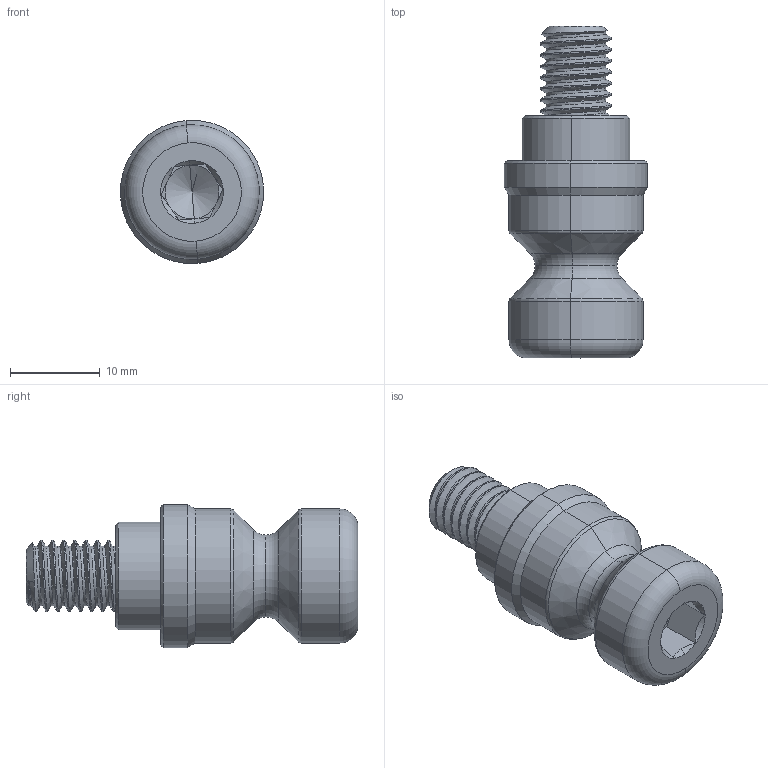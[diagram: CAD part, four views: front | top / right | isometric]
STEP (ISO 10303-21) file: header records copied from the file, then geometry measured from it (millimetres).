
FILE_DESCRIPTION((''),'2;1');
FILE_NAME('PS_16_ASM','2026-06-10T14:02:04',('Admin'),(''),'CREO PARAMETRIC BY PTC INC, 2025010','CREO PARAMETRIC BY PTC INC, 2025010','');
FILE_SCHEMA(('CONFIG_CONTROL_DESIGN'));
Length unit declared in the file: millimetre
Products named in the file (3): F000-24770A_52MM_-0001; F000-24770A_52MM_-0008; PS_16_ASM
Assembly tree (2 placements, depth 2):
  PS_16_ASM
    F000-24770A_52MM_-0001
    F000-24770A_52MM_-0008
Bounding box: 15.94 x 37 x 15.94 mm (x, y, z)
Volume: 4032.2 mm3; surface area: 2806.1 mm2
Topology: 2 solids, 2 shells, 104 faces, 253 edges, 153 vertices
Faces by surface type: cylinder 40, plane 30, cone 21, torus 10, bspline 3
Entity records: 15028 total; most frequent: CARTESIAN_POINT 12649, ORIENTED_EDGE 498, DIRECTION 448, EDGE_CURVE 249, AXIS2_PLACEMENT_3D 170, VERTEX_POINT 153, VECTOR 108, LINE 108
